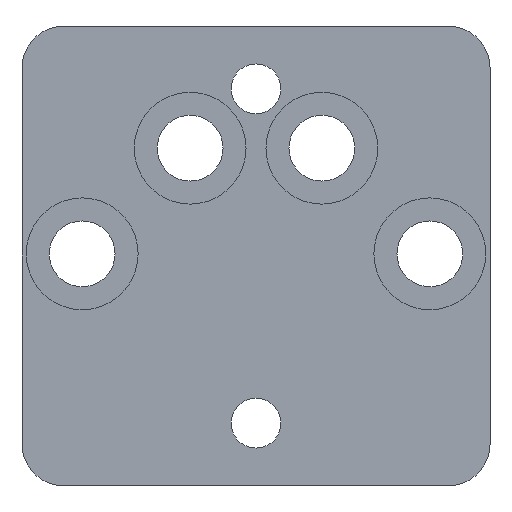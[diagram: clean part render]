
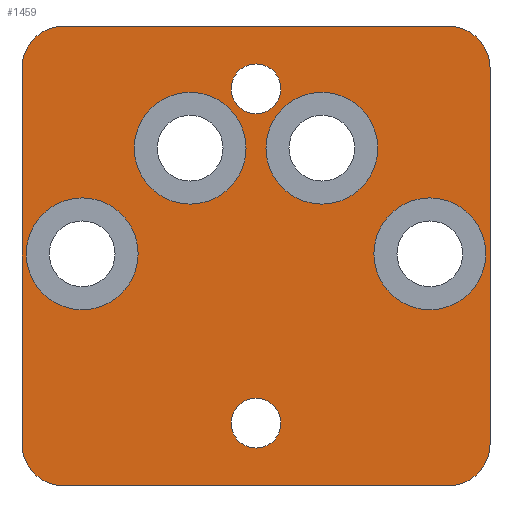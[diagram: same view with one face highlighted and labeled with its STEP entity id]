
A CAD part, front view. The second image highlights one B-rep face of the part: STEP entity #1459.
In plain terms, the highlighted planar face has unit normal (0, -1, 0).
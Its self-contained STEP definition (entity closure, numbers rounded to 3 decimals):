
#1459 = ADVANCED_FACE( '', ( #3156, #3157, #3158, #3159, #3160, #3161, #3162 ), #3163, .T. );
#3156 = FACE_BOUND( '', #5191, .T. );
#3157 = FACE_BOUND( '', #5192, .T. );
#3158 = FACE_BOUND( '', #5193, .T. );
#3159 = FACE_BOUND( '', #5194, .T. );
#3160 = FACE_BOUND( '', #5195, .T. );
#3161 = FACE_BOUND( '', #5196, .T. );
#3162 = FACE_OUTER_BOUND( '', #5197, .T. );
#3163 = PLANE( '', #5198 );
#5191 = EDGE_LOOP( '', ( #10754 ) );
#5192 = EDGE_LOOP( '', ( #10755 ) );
#5193 = EDGE_LOOP( '', ( #10756 ) );
#5194 = EDGE_LOOP( '', ( #10757 ) );
#5195 = EDGE_LOOP( '', ( #10758 ) );
#5196 = EDGE_LOOP( '', ( #10759 ) );
#5197 = EDGE_LOOP( '', ( #10760, #10761, #10762, #10763, #10764, #10765, #10766, #10767 ) );
#5198 = AXIS2_PLACEMENT_3D( '', #10768, #10769, #10770 );
#10754 = ORIENTED_EDGE( '', *, *, #15111, .F. );
#10755 = ORIENTED_EDGE( '', *, *, #13793, .F. );
#10756 = ORIENTED_EDGE( '', *, *, #13762, .T. );
#10757 = ORIENTED_EDGE( '', *, *, #14320, .T. );
#10758 = ORIENTED_EDGE( '', *, *, #13703, .T. );
#10759 = ORIENTED_EDGE( '', *, *, #15112, .T. );
#10760 = ORIENTED_EDGE( '', *, *, #15113, .T. );
#10761 = ORIENTED_EDGE( '', *, *, #14409, .T. );
#10762 = ORIENTED_EDGE( '', *, *, #14347, .T. );
#10763 = ORIENTED_EDGE( '', *, *, #14469, .T. );
#10764 = ORIENTED_EDGE( '', *, *, #14051, .T. );
#10765 = ORIENTED_EDGE( '', *, *, #13483, .T. );
#10766 = ORIENTED_EDGE( '', *, *, #14497, .T. );
#10767 = ORIENTED_EDGE( '', *, *, #15114, .T. );
#10768 = CARTESIAN_POINT( '', ( 0., 0., 0. ) );
#10769 = DIRECTION( '', ( 0., -1., 0. ) );
#10770 = DIRECTION( '', ( 0., 0., -1. ) );
#13483 = EDGE_CURVE( '', #15629, #15627, #15630, .T. );
#13703 = EDGE_CURVE( '', #16010, #16010, #16011, .T. );
#13762 = EDGE_CURVE( '', #16112, #16112, #16113, .T. );
#13793 = EDGE_CURVE( '', #16167, #16167, #16168, .T. );
#14051 = EDGE_CURVE( '', #16611, #15629, #16612, .T. );
#14320 = EDGE_CURVE( '', #17054, #17054, #17055, .T. );
#14347 = EDGE_CURVE( '', #17098, #17099, #17100, .T. );
#14409 = EDGE_CURVE( '', #17196, #17098, #17197, .T. );
#14469 = EDGE_CURVE( '', #17099, #16611, #17287, .T. );
#14497 = EDGE_CURVE( '', #15627, #17327, #17328, .T. );
#15111 = EDGE_CURVE( '', #18166, #18166, #18167, .T. );
#15112 = EDGE_CURVE( '', #18168, #18168, #18169, .T. );
#15113 = EDGE_CURVE( '', #18170, #17196, #18171, .T. );
#15114 = EDGE_CURVE( '', #17327, #18170, #18172, .T. );
#15627 = VERTEX_POINT( '', #18970 );
#15629 = VERTEX_POINT( '', #18973 );
#15630 = CIRCLE( '', #18974, 3.175 );
#16010 = VERTEX_POINT( '', #20261 );
#16011 = CIRCLE( '', #20262, 4.25 );
#16112 = VERTEX_POINT( '', #20482 );
#16113 = CIRCLE( '', #20483, 4.25 );
#16167 = VERTEX_POINT( '', #20647 );
#16168 = CIRCLE( '', #20648, 1.892 );
#16611 = VERTEX_POINT( '', #22083 );
#16612 = LINE( '', #22084, #22085 );
#17054 = VERTEX_POINT( '', #23495 );
#17055 = CIRCLE( '', #23496, 4.25 );
#17098 = VERTEX_POINT( '', #23570 );
#17099 = VERTEX_POINT( '', #23571 );
#17100 = LINE( '', #23572, #23573 );
#17196 = VERTEX_POINT( '', #23750 );
#17197 = CIRCLE( '', #23751, 3.175 );
#17287 = CIRCLE( '', #24049, 3.175 );
#17327 = VERTEX_POINT( '', #24115 );
#17328 = LINE( '', #24116, #24117 );
#18166 = VERTEX_POINT( '', #26519 );
#18167 = CIRCLE( '', #26520, 1.892 );
#18168 = VERTEX_POINT( '', #26521 );
#18169 = CIRCLE( '', #26522, 4.25 );
#18170 = VERTEX_POINT( '', #26523 );
#18171 = LINE( '', #26524, #26525 );
#18172 = CIRCLE( '', #26526, 3.175 );
#18970 = CARTESIAN_POINT( '', ( 14.605, 0., 17.463 ) );
#18973 = CARTESIAN_POINT( '', ( 17.78, 0., 14.288 ) );
#18974 = AXIS2_PLACEMENT_3D( '', #28120, #28121, #28122 );
#20261 = CARTESIAN_POINT( '', ( 13.208, 0., -4.085 ) );
#20262 = AXIS2_PLACEMENT_3D( '', #28207, #28208, #28209 );
#20482 = CARTESIAN_POINT( '', ( 5.004, 0., 3.942 ) );
#20483 = AXIS2_PLACEMENT_3D( '', #28229, #28230, #28231 );
#20647 = CARTESIAN_POINT( '', ( 1.892, 0., 12.7 ) );
#20648 = AXIS2_PLACEMENT_3D( '', #28245, #28246, #28247 );
#22083 = CARTESIAN_POINT( '', ( 17.78, 0., -14.288 ) );
#22084 = CARTESIAN_POINT( '', ( 17.78, 0., -17.463 ) );
#22085 = VECTOR( '', #28308, 1000. );
#23495 = CARTESIAN_POINT( '', ( -5.004, 0., 3.942 ) );
#23496 = AXIS2_PLACEMENT_3D( '', #28381, #28382, #28383 );
#23570 = CARTESIAN_POINT( '', ( -14.605, 0., -17.463 ) );
#23571 = CARTESIAN_POINT( '', ( 14.605, 0., -17.463 ) );
#23572 = CARTESIAN_POINT( '', ( -17.78, 0., -17.463 ) );
#23573 = VECTOR( '', #28393, 1000. );
#23750 = CARTESIAN_POINT( '', ( -17.78, 0., -14.288 ) );
#23751 = AXIS2_PLACEMENT_3D( '', #28413, #28414, #28415 );
#24049 = AXIS2_PLACEMENT_3D( '', #28438, #28439, #28440 );
#24115 = CARTESIAN_POINT( '', ( -14.605, 0., 17.463 ) );
#24116 = CARTESIAN_POINT( '', ( 17.78, 0., 17.463 ) );
#24117 = VECTOR( '', #28451, 1000. );
#26519 = CARTESIAN_POINT( '', ( 1.892, 0., -12.7 ) );
#26520 = AXIS2_PLACEMENT_3D( '', #28617, #28618, #28619 );
#26521 = CARTESIAN_POINT( '', ( -13.208, 0., -4.085 ) );
#26522 = AXIS2_PLACEMENT_3D( '', #28620, #28621, #28622 );
#26523 = CARTESIAN_POINT( '', ( -17.78, 0., 14.288 ) );
#26524 = CARTESIAN_POINT( '', ( -17.78, 0., 17.463 ) );
#26525 = VECTOR( '', #28623, 1000. );
#26526 = AXIS2_PLACEMENT_3D( '', #28624, #28625, #28626 );
#28120 = CARTESIAN_POINT( '', ( 14.605, 0., 14.288 ) );
#28121 = DIRECTION( '', ( 0., -1., 0. ) );
#28122 = DIRECTION( '', ( 0., 0., -1. ) );
#28207 = CARTESIAN_POINT( '', ( 13.208, 0., 0.165 ) );
#28208 = DIRECTION( '', ( 0., 1., 0. ) );
#28209 = DIRECTION( '', ( 0., 0., -1. ) );
#28229 = CARTESIAN_POINT( '', ( 5.004, 0., 8.192 ) );
#28230 = DIRECTION( '', ( 0., 1., 0. ) );
#28231 = DIRECTION( '', ( 0., 0., -1. ) );
#28245 = CARTESIAN_POINT( '', ( 0., 0., 12.7 ) );
#28246 = DIRECTION( '', ( 0., -1., 0. ) );
#28247 = DIRECTION( '', ( 1., 0., 0. ) );
#28308 = DIRECTION( '', ( 0., 0., 1. ) );
#28381 = CARTESIAN_POINT( '', ( -5.004, 0., 8.192 ) );
#28382 = DIRECTION( '', ( 0., 1., 0. ) );
#28383 = DIRECTION( '', ( 0., 0., -1. ) );
#28393 = DIRECTION( '', ( 1., 0., 0. ) );
#28413 = CARTESIAN_POINT( '', ( -14.605, 0., -14.288 ) );
#28414 = DIRECTION( '', ( 0., -1., 0. ) );
#28415 = DIRECTION( '', ( 0., 0., -1. ) );
#28438 = CARTESIAN_POINT( '', ( 14.605, 0., -14.288 ) );
#28439 = DIRECTION( '', ( 0., -1., 0. ) );
#28440 = DIRECTION( '', ( 0., 0., -1. ) );
#28451 = DIRECTION( '', ( -1., 0., 0. ) );
#28617 = CARTESIAN_POINT( '', ( 0., 0., -12.7 ) );
#28618 = DIRECTION( '', ( 0., -1., 0. ) );
#28619 = DIRECTION( '', ( 1., 0., 0. ) );
#28620 = CARTESIAN_POINT( '', ( -13.208, 0., 0.165 ) );
#28621 = DIRECTION( '', ( 0., 1., 0. ) );
#28622 = DIRECTION( '', ( 0., 0., -1. ) );
#28623 = DIRECTION( '', ( 0., 0., -1. ) );
#28624 = CARTESIAN_POINT( '', ( -14.605, 0., 14.288 ) );
#28625 = DIRECTION( '', ( 0., -1., 0. ) );
#28626 = DIRECTION( '', ( 0., 0., -1. ) );
